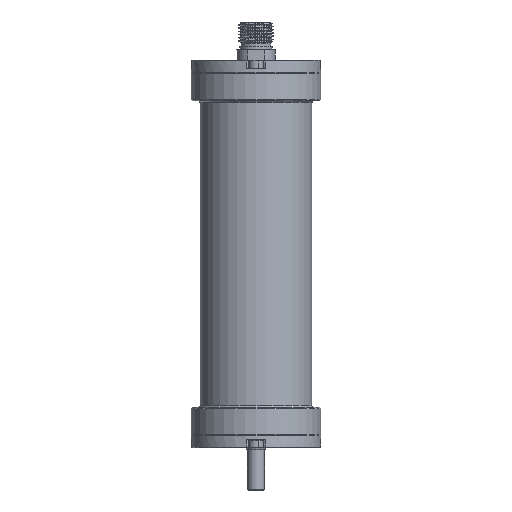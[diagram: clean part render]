
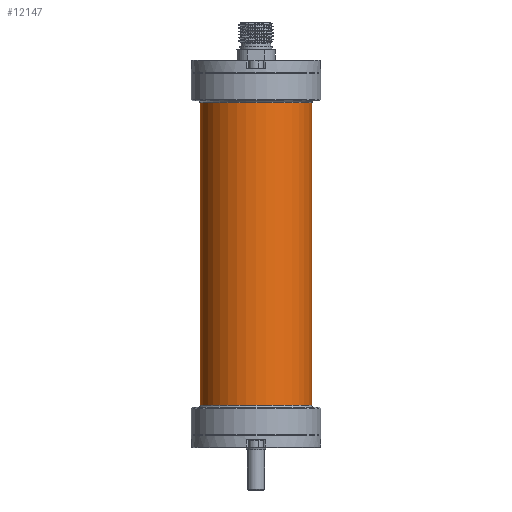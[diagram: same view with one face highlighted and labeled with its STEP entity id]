
A CAD part, front view. The second image highlights one B-rep face of the part: STEP entity #12147.
In plain terms, the highlighted cylindrical face has radius 26.25 mm (diameter 52.5 mm), a partial arc.
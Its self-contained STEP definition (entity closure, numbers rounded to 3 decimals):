
#2662 = CARTESIAN_POINT ( 'NONE',  ( 0., 0., 83.45 ) ) ;
#3368 = CARTESIAN_POINT ( 'NONE',  ( 0., 0., 12.45 ) ) ;
#4895 = CARTESIAN_POINT ( 'NONE',  ( -26.25, 0., 12.45 ) ) ;
#5792 = LINE ( 'NONE', #23050, #28926 ) ;
#7267 = VERTEX_POINT ( 'NONE', #4895 ) ;
#8780 = ORIENTED_EDGE ( 'NONE', *, *, #26680, .F. ) ;
#9037 = CYLINDRICAL_SURFACE ( 'NONE', #39729, 26.25 ) ;
#9233 = CARTESIAN_POINT ( 'NONE',  ( 26.25, 0., 83.45 ) ) ;
#9587 = ORIENTED_EDGE ( 'NONE', *, *, #31534, .T. ) ;
#10213 = DIRECTION ( 'NONE',  ( 1., 0., 0. ) ) ;
#10339 = CARTESIAN_POINT ( 'NONE',  ( -26.25, 0., 154.45 ) ) ;
#12147 = ADVANCED_FACE ( 'NONE', ( #19514 ), #9037, .T. ) ;
#15649 = CARTESIAN_POINT ( 'NONE',  ( 0., 0., 154.45 ) ) ;
#15875 = DIRECTION ( 'NONE',  ( 0., 0., 1. ) ) ;
#16530 = DIRECTION ( 'NONE',  ( 0., 0., 1. ) ) ;
#17488 = EDGE_LOOP ( 'NONE', ( #17660, #9587, #35753, #8780 ) ) ;
#17660 = ORIENTED_EDGE ( 'NONE', *, *, #22190, .F. ) ;
#18526 = CARTESIAN_POINT ( 'NONE',  ( 26.25, 0., 154.45 ) ) ;
#18578 = AXIS2_PLACEMENT_3D ( 'NONE', #3368, #27253, #10213 ) ;
#19514 = FACE_OUTER_BOUND ( 'NONE', #17488, .T. ) ;
#20595 = LINE ( 'NONE', #9233, #33701 ) ;
#21996 = VERTEX_POINT ( 'NONE', #40643 ) ;
#22120 = VERTEX_POINT ( 'NONE', #18526 ) ;
#22190 = EDGE_CURVE ( 'NONE', #7267, #36743, #5792, .T. ) ;
#23050 = CARTESIAN_POINT ( 'NONE',  ( -26.25, 0., 83.45 ) ) ;
#25638 = DIRECTION ( 'NONE',  ( 1., 0., 0. ) ) ;
#26680 = EDGE_CURVE ( 'NONE', #36743, #22120, #32915, .T. ) ;
#26762 = DIRECTION ( 'NONE',  ( 1., 0., 0. ) ) ;
#27253 = DIRECTION ( 'NONE',  ( 0., 0., 1. ) ) ;
#28926 = VECTOR ( 'NONE', #33923, 1000. ) ;
#29502 = DIRECTION ( 'NONE',  ( 0., 0., 1. ) ) ;
#29953 = EDGE_CURVE ( 'NONE', #21996, #22120, #20595, .T. ) ;
#31534 = EDGE_CURVE ( 'NONE', #7267, #21996, #44699, .T. ) ;
#32915 = CIRCLE ( 'NONE', #44570, 26.25 ) ;
#33701 = VECTOR ( 'NONE', #16530, 1000. ) ;
#33923 = DIRECTION ( 'NONE',  ( 0., 0., 1. ) ) ;
#35753 = ORIENTED_EDGE ( 'NONE', *, *, #29953, .T. ) ;
#36743 = VERTEX_POINT ( 'NONE', #10339 ) ;
#39729 = AXIS2_PLACEMENT_3D ( 'NONE', #2662, #15875, #26762 ) ;
#40643 = CARTESIAN_POINT ( 'NONE',  ( 26.25, 0., 12.45 ) ) ;
#44570 = AXIS2_PLACEMENT_3D ( 'NONE', #15649, #29502, #25638 ) ;
#44699 = CIRCLE ( 'NONE', #18578, 26.25 ) ;
